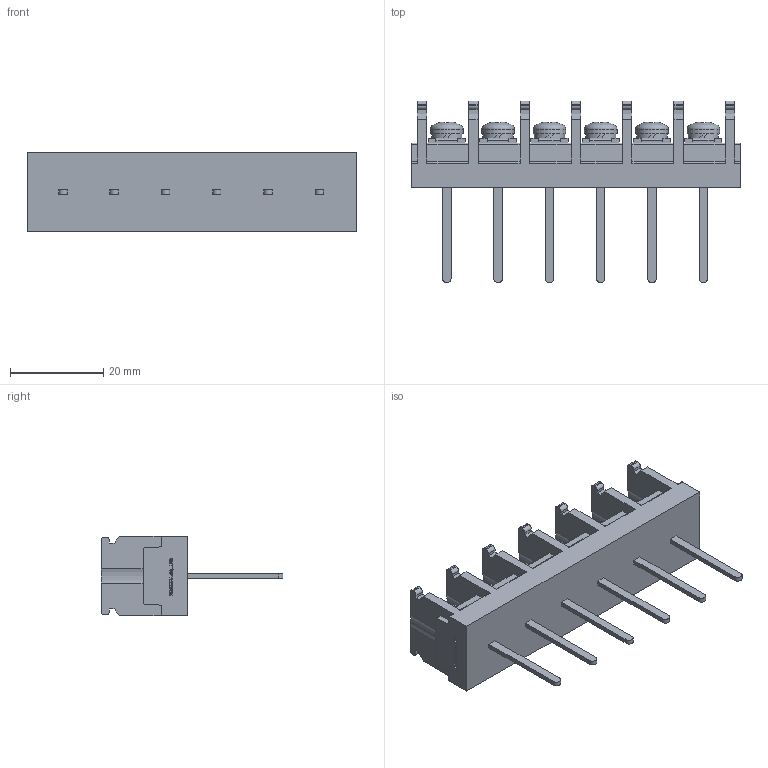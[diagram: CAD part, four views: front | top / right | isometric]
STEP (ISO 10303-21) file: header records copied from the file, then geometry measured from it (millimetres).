
FILE_DESCRIPTION(/* description */ ('Alibre Inc.'),/* implementation_level */ '2;1');
FILE_NAME(/* name */ 'export0',/* time_stamp */ '2015-10-20T07:45:56+09:00',/* author */ (''),/* organization */ (''),/* preprocessor_version */ 'ST-DEVELOPER v14',/* originating_system */ 'Alibre',/* authorisation */ '');
FILE_SCHEMA (('CONFIG_CONTROL_DESIGN'));
Length unit declared in the file: centimetre
Products named in the file (1): ID_1
Bounding box: 70.6 x 39 x 17 mm (x, y, z)
Volume: 13518 mm3; surface area: 8181.3 mm2
Topology: 1 solids, 1 shells, 858 faces, 2376 edges, 1578 vertices
Faces by surface type: plane 602, cylinder 110, bspline 104, cone 24, torus 12, sphere 6
Full cylindrical faces by diameter (mm): 4 x6, 6.5 x6, 7 x6
Entity records: 26583 total; most frequent: CARTESIAN_POINT 5857, ORIENTED_EDGE 4668, DIRECTION 3356, EDGE_CURVE 2334, VECTOR 1670, LINE 1670, VERTEX_POINT 1560, AXIS2_PLACEMENT_3D 1139
